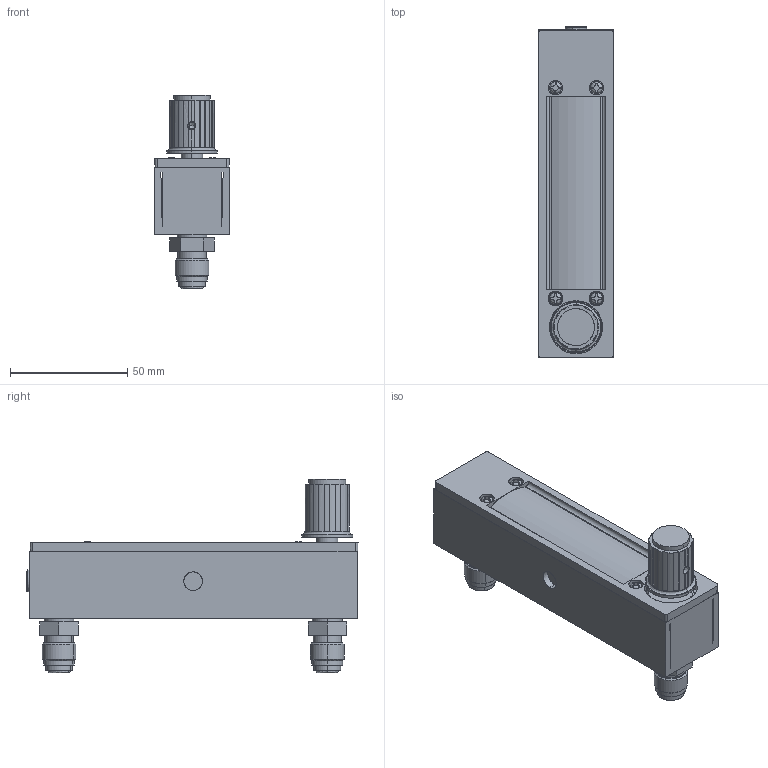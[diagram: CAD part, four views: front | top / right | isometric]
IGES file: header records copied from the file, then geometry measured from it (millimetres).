
Start section: SolidWorks IGES file using analytic representation for surfaces
Global section: file name: G:\Engineering\CAD MODELS FOR SALES\CAD MODEL STORAGE\1350G\CUSTOMER FILES\IGES\1350-G-7-T-1-A.IGS; native system: SolidWorks 2020; preprocessor: SolidWorks 2020; author: CRaksin; date: 221011.141343; units: inch
Bounding box: 31.75 x 141.5 x 82.41 mm (x, y, z)
Surface area: 54243.3 mm2 (no closed solid volume)
Topology: 0 solids, 0 shells, 519 faces, 6804 edges, 6802 vertices
Faces by surface type: bspline 304, revolution 215
